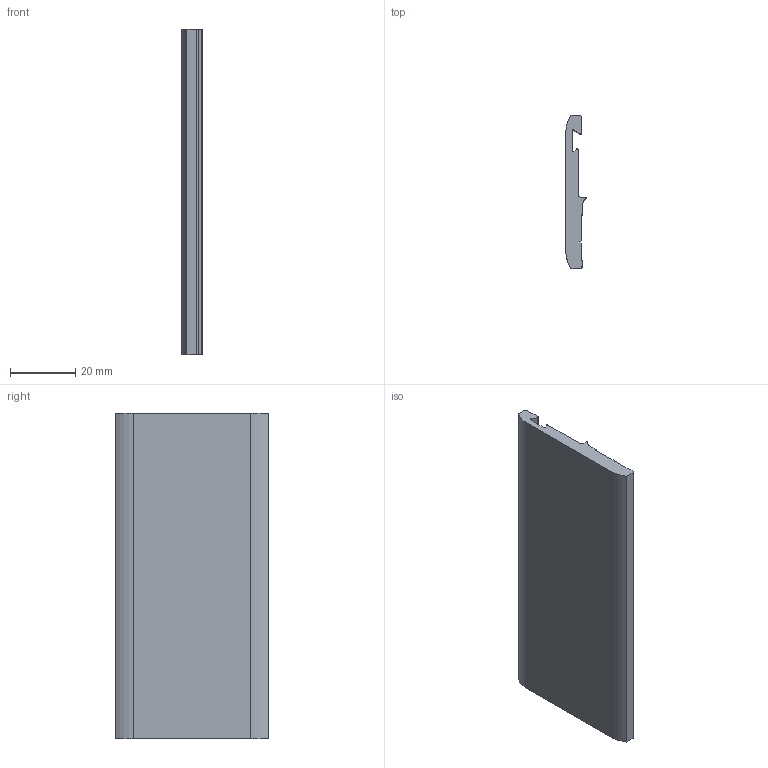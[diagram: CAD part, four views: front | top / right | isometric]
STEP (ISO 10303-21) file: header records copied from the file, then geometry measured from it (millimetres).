
FILE_DESCRIPTION (( 'STEP AP203' ), '1' );
FILE_NAME ('013.030.017.STEP', '2021-03-22T07:15:51', ( '' ), ( '' ), 'SwSTEP 2.0', 'SolidWorks 2018', '' );
FILE_SCHEMA (( 'CONFIG_CONTROL_DESIGN' ));
Length unit declared in the file: millimetre
Products named in the file (1): 013.030.017
Bounding box: 6.3 x 47 x 100 mm (x, y, z)
Volume: 19244.8 mm3; surface area: 11454.2 mm2
Topology: 1 solids, 1 shells, 30 faces, 84 edges, 56 vertices
Faces by surface type: plane 19, cylinder 11
Entity records: 1047 total; most frequent: CARTESIAN_POINT 171, DIRECTION 168, ORIENTED_EDGE 168, EDGE_CURVE 84, VECTOR 62, LINE 62, VERTEX_POINT 56, AXIS2_PLACEMENT_3D 53
